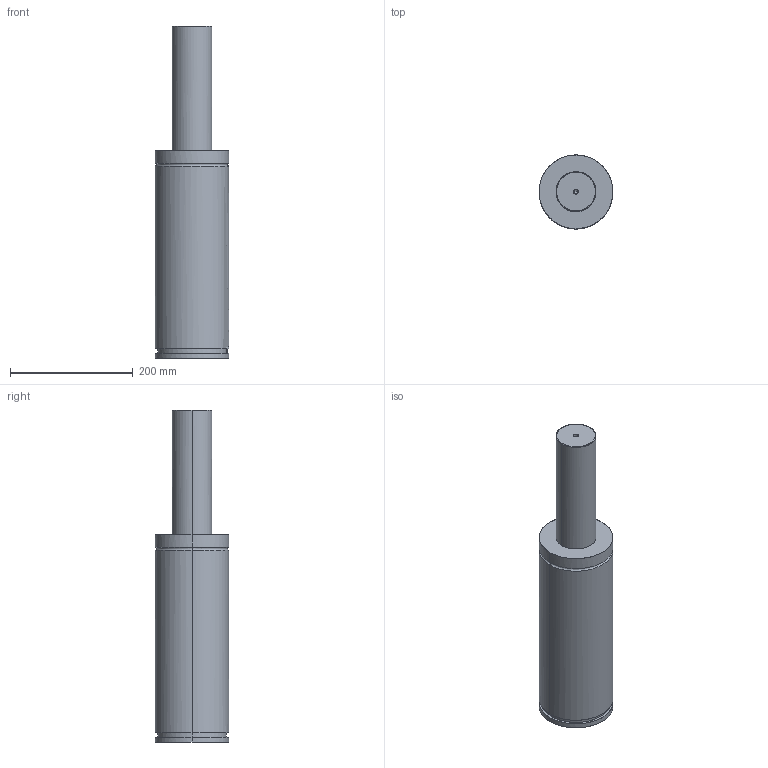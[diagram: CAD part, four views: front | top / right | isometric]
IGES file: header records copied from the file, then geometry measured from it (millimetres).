
Global section: file name: E:\UnigraphicsGraphicData\MISUMI_PRESS-PARTS\IGES\3d_gse120-200_03863_r00.igs; native system: NX V5.0; preprocessor: UGS NX IGES V5.0; author: MISUMI; date: 20110105.160751; units: millimetre
Bounding box: 120 x 120 x 540 mm (x, y, z)
Surface area: 198062.1 mm2 (no closed solid volume)
Topology: 0 solids, 0 shells, 75 faces, 604 edges, 602 vertices
Faces by surface type: bspline 75
